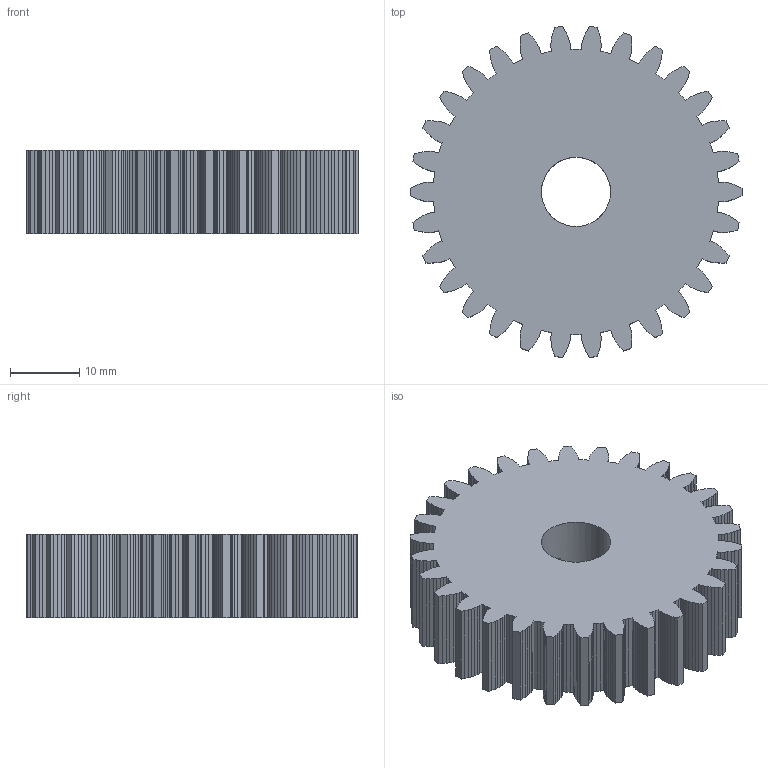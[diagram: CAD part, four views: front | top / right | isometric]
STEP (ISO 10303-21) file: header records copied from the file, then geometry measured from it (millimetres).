
FILE_DESCRIPTION(('Open CASCADE Model'),'2;1');
FILE_NAME('Open CASCADE Shape Model','2026-10-30T15:28:18',('Author'),( 'Open CASCADE'),'Open CASCADE STEP processor 7.9','Open CASCADE 7.9' ,'Unknown');
FILE_SCHEMA(('AUTOMOTIVE_DESIGN { 1 0 10303 214 1 1 1 1 }'));
Length unit declared in the file: millimetre
Products named in the file (2): 88428ec2-d476-11f1-9bad-c3e4c3b877ef; spur_gear
Assembly tree (1 placements, depth 2):
  88428ec2-d476-11f1-9bad-c3e4c3b877ef
    spur_gear
Bounding box: 47.99 x 47.84 x 12 mm (x, y, z)
Volume: 17859.4 mm3; surface area: 6889.9 mm2
Topology: 1 solids, 1 shells, 547 faces, 1635 edges, 1090 vertices
Faces by surface type: plane 546, cylinder 1
Full cylindrical faces by diameter (mm): 10 x1
Entity records: 39321 total; most frequent: CARTESIAN_POINT 6568, DIRECTION 6003, LINE 4897, VECTOR 4897, ORIENTED_EDGE 3270, PCURVE 3270, DEFINITIONAL_REPRESENTATION 3270, EDGE_CURVE 1635
